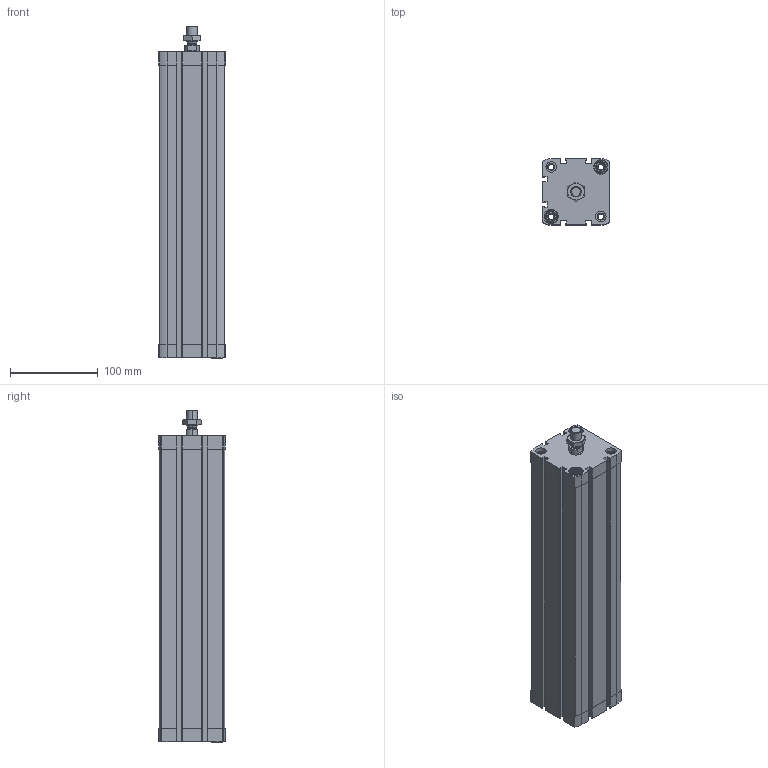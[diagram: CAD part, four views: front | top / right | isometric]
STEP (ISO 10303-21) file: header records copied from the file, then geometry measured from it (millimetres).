
FILE_DESCRIPTION (( 'STEP AP203' ), '1' );
FILE_NAME ('CCN63-300M.STEP', '2017-04-05T18:27:17', ( '' ), ( '' ), 'SwSTEP 2.0', 'SolidWorks 2016', '' );
FILE_SCHEMA (( 'CONFIG_CONTROL_DESIGN' ));
Length unit declared in the file: millimetre
Products named in the file (4): CCN---(Z); CCN_(KS); _DIN-439-B - M12x1.25(F); CCN63-300M
Assembly tree (3 placements, depth 2):
  CCN63-300M
    CCN---(Z)
    CCN_(KS)
    _DIN-439-B - M12x1.25(F)
Bounding box: 75.5 x 75.5 x 378.5 mm (x, y, z)
Volume: 961582.5 mm3; surface area: 268405.2 mm2
Topology: 3 solids, 3 shells, 491 faces, 1316 edges, 862 vertices
Faces by surface type: plane 227, cylinder 212, cone 48, bspline 4
Entity records: 16072 total; most frequent: CARTESIAN_POINT 3135, DIRECTION 2672, ORIENTED_EDGE 2632, EDGE_CURVE 1316, AXIS2_PLACEMENT_3D 977, VERTEX_POINT 862, LINE 718, VECTOR 718
